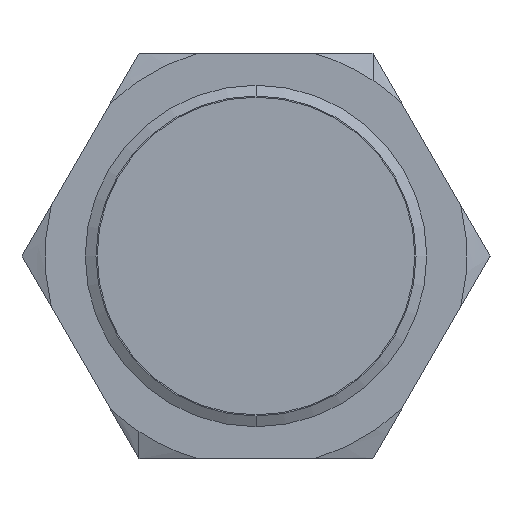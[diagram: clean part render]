
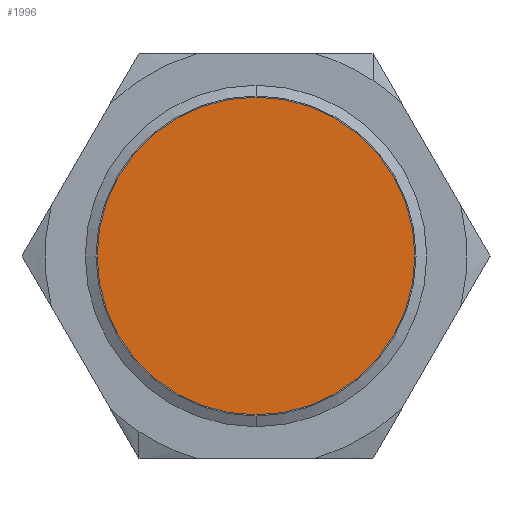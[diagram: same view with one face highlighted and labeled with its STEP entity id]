
A CAD part, left-side view. The second image highlights one B-rep face of the part: STEP entity #1996.
In plain terms, the highlighted planar face has unit normal (-1, 0, 0).
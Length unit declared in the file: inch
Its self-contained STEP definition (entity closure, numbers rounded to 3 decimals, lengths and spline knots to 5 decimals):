
#1954 = EDGE_LOOP ( 'NONE', ( #7962, #7430 ) ) ;
#1996 = ADVANCED_FACE ( 'NONE', ( #5663 ), #5664, .F. ) ;
#2055 = EDGE_CURVE ( 'NONE', #2272, #5012, #5939, .T. ) ;
#2272 = VERTEX_POINT ( 'NONE', #6961 ) ;
#4303 = EDGE_CURVE ( 'NONE', #5012, #2272, #5649, .T. ) ;
#5012 = VERTEX_POINT ( 'NONE', #6139 ) ;
#5649 = CIRCLE ( 'NONE', #5650, 0.55 ) ;
#5650 = AXIS2_PLACEMENT_3D ( 'NONE', #5651, #5652, #5653 ) ;
#5651 = CARTESIAN_POINT ( 'NONE',  ( 0., 0., 0. ) ) ;
#5652 = DIRECTION ( 'NONE',  ( 1., 0., 0. ) ) ;
#5653 = DIRECTION ( 'NONE',  ( 0., 0., 1. ) ) ;
#5663 = FACE_OUTER_BOUND ( 'NONE', #1954, .T. ) ;
#5664 = PLANE ( 'NONE',  #5665 ) ;
#5665 = AXIS2_PLACEMENT_3D ( 'NONE', #5666, #5667, #5668 ) ;
#5666 = CARTESIAN_POINT ( 'NONE',  ( 0., 0., 0. ) ) ;
#5667 = DIRECTION ( 'NONE',  ( 1., 0., 0. ) ) ;
#5668 = DIRECTION ( 'NONE',  ( 0., 0., -1. ) ) ;
#5939 = CIRCLE ( 'NONE', #5940, 0.55 ) ;
#5940 = AXIS2_PLACEMENT_3D ( 'NONE', #5941, #5942, #5943 ) ;
#5941 = CARTESIAN_POINT ( 'NONE',  ( 0., 0., 0. ) ) ;
#5942 = DIRECTION ( 'NONE',  ( 1., 0., 0. ) ) ;
#5943 = DIRECTION ( 'NONE',  ( 0., 0., 1. ) ) ;
#6139 = CARTESIAN_POINT ( 'NONE',  ( 0., 0., -0.55 ) ) ;
#6961 = CARTESIAN_POINT ( 'NONE',  ( 0., 0., 0.55 ) ) ;
#7430 = ORIENTED_EDGE ( 'NONE', *, *, #4303, .F. ) ;
#7962 = ORIENTED_EDGE ( 'NONE', *, *, #2055, .F. ) ;
